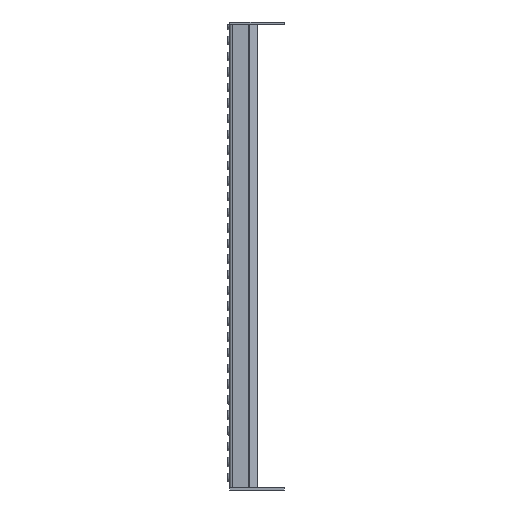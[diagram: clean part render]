
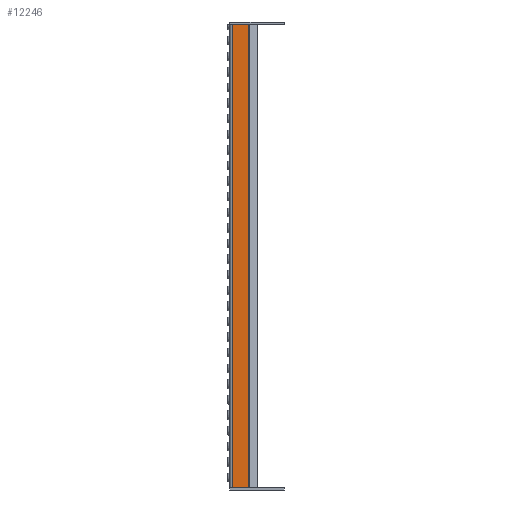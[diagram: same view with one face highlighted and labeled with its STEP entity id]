
A CAD part, left-side view. The second image highlights one B-rep face of the part: STEP entity #12246.
In plain terms, the highlighted planar face has unit normal (-1, 0, 0).
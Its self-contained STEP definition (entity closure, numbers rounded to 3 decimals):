
#1709=FACE_OUTER_BOUND('',#2612,.T.);
#2612=EDGE_LOOP('',(#10649,#10650,#10651,#10652));
#3611=LINE('',#24142,#4791);
#3622=LINE('',#24172,#4802);
#3632=LINE('',#24195,#4812);
#3639=LINE('',#24210,#4819);
#4791=VECTOR('',#16452,10.);
#4802=VECTOR('',#16477,10.);
#4812=VECTOR('',#16499,10.);
#4819=VECTOR('',#16518,10.);
#6004=VERTEX_POINT('',#24139);
#6005=VERTEX_POINT('',#24141);
#6017=VERTEX_POINT('',#24171);
#6024=VERTEX_POINT('',#24194);
#7561=EDGE_CURVE('',#6005,#6004,#3611,.T.);
#7576=EDGE_CURVE('',#6004,#6017,#3622,.T.);
#7588=EDGE_CURVE('',#6024,#6005,#3632,.T.);
#7596=EDGE_CURVE('',#6017,#6024,#3639,.T.);
#10649=ORIENTED_EDGE('',*,*,#7576,.T.);
#10650=ORIENTED_EDGE('',*,*,#7596,.T.);
#10651=ORIENTED_EDGE('',*,*,#7588,.T.);
#10652=ORIENTED_EDGE('',*,*,#7561,.T.);
#11445=PLANE('',#13499);
#12246=ADVANCED_FACE('',(#1709),#11445,.T.);
#13499=AXIS2_PLACEMENT_3D('',#24211,#16519,#16520);
#16452=DIRECTION('',(0.,1.,0.));
#16477=DIRECTION('',(0.,0.,-1.));
#16499=DIRECTION('',(0.,0.,1.));
#16518=DIRECTION('',(0.,-1.,0.));
#16519=DIRECTION('center_axis',(-1.,0.,0.));
#16520=DIRECTION('ref_axis',(0.,0.,1.));
#24139=CARTESIAN_POINT('',(0.,-3.25,594.));
#24141=CARTESIAN_POINT('',(0.,-24.427,594.));
#24142=CARTESIAN_POINT('',(0.,0.,594.));
#24171=CARTESIAN_POINT('',(0.,-3.25,0.));
#24172=CARTESIAN_POINT('',(0.,-3.25,0.));
#24194=CARTESIAN_POINT('',(0.,-24.427,0.));
#24195=CARTESIAN_POINT('',(0.,-24.427,148.5));
#24210=CARTESIAN_POINT('',(0.,0.,0.));
#24211=CARTESIAN_POINT('Origin',(0.,-25.,0.));
